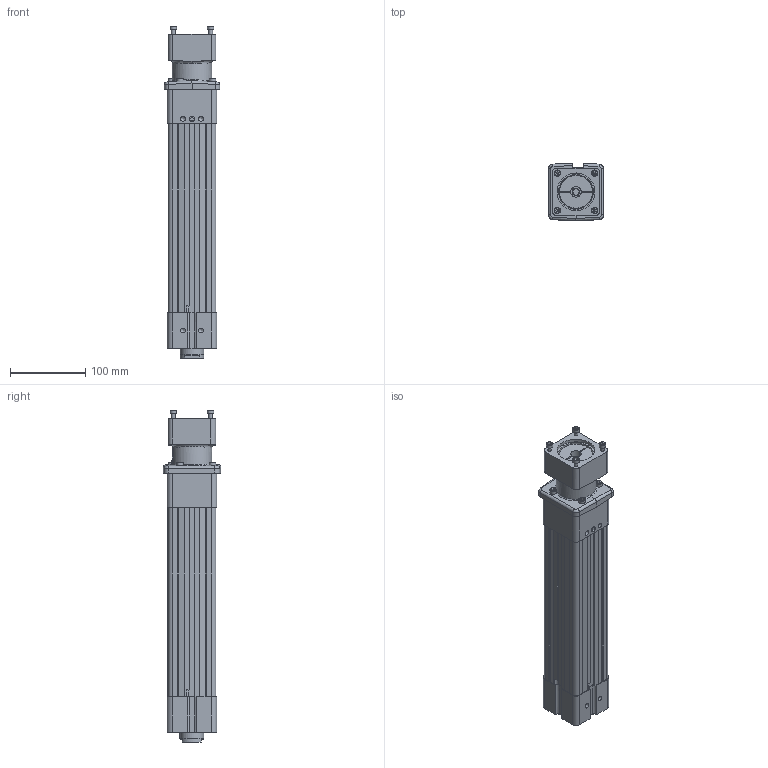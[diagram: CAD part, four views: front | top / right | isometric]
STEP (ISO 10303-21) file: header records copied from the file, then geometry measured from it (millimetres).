
FILE_DESCRIPTION (( 'STEP AP203' ), '1' );
FILE_NAME ('RSA32_BNM05_SK6.000_RS-479015-1.step', '2025-01-15T12:49:51', ( '' ), ( '' ), 'SwSTEP 2.0', 'SolidWorks 2024', '' );
FILE_SCHEMA (( 'CONFIG_CONTROL_DESIGN' ));
Length unit declared in the file: inch
Products named in the file (4): RSA32_BNM05_SK6.000_RS-479015-1; tempJoin0_11329103_RSA32_BNM05_SK6.000_RS-479015-1; Base_RSA32_BNM05_SK6.000_RS-479015-1; tempJoin1_45109054_RSA32_BNM05_SK6.000_RS-479015-1
Assembly tree (3 placements, depth 2):
  RSA32_BNM05_SK6.000_RS-479015-1
    tempJoin1_45109054_RSA32_BNM05_SK6.000_RS-479015-1
    tempJoin0_11329103_RSA32_BNM05_SK6.000_RS-479015-1
    Base_RSA32_BNM05_SK6.000_RS-479015-1
Bounding box: 73.15 x 76.77 x 440.39 mm (x, y, z)
Volume: 1351438.9 mm3; surface area: 263436.7 mm2
Topology: 7 solids, 25 shells, 850 faces, 2100 edges, 1352 vertices
Faces by surface type: plane 496, cylinder 237, cone 57, torus 28, sphere 24, bspline 8
Full cylindrical faces by diameter (mm): 2.362 x2, 2.997 x6, 4 x1, 4.2 x8, 4.201 x4, 4.318 x1, 4.763 x2, 4.768 x2, 4.826 x2, 4.978 x4, 5 x12, 5.001 x4, 5.334 x4, 5.69 x4, 6.528 x4, 7 x1, 8.5 x12, 8.89 x4, 9.921 x1, 9.98 x1, 10 x9, 11.176 x4, 11.938 x4, 12 x2, 14 x1, 15.24 x1, 17.78 x1, 26.194 x1, 31.521 x1, 31.75 x2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
Entity records: 25174 total; most frequent: CARTESIAN_POINT 5478, DIRECTION 4131, ORIENTED_EDGE 3670, EDGE_CURVE 1835, AXIS2_PLACEMENT_3D 1541, VERTEX_POINT 1266, EDGE_LOOP 1127, LINE 1049
